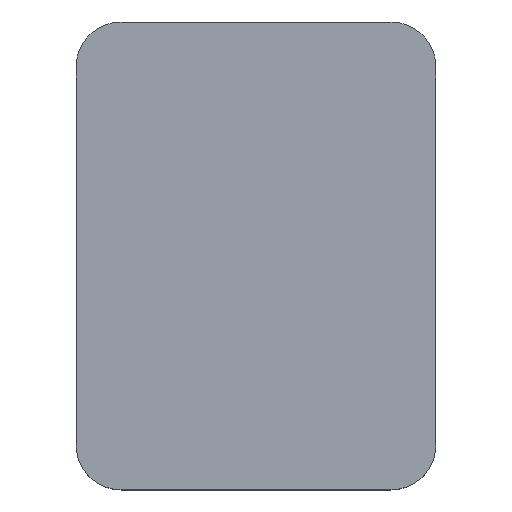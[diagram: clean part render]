
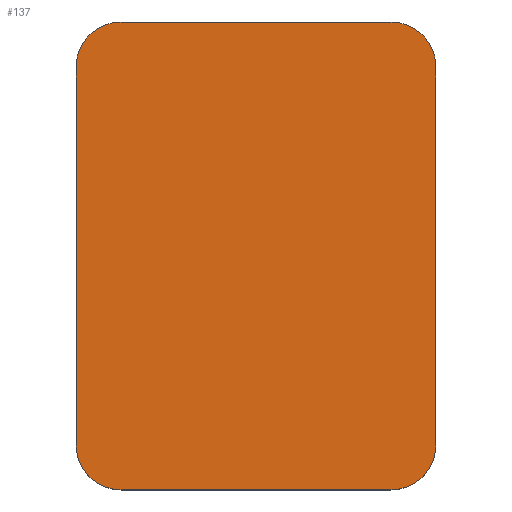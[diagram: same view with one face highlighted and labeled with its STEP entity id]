
A CAD part, top view. The second image highlights one B-rep face of the part: STEP entity #137.
In plain terms, the highlighted planar face has unit normal (0, 0, 1).
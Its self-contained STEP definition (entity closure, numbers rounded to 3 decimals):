
#21 = EDGE_CURVE('',#22,#24,#26,.T.);
#22 = VERTEX_POINT('',#23);
#23 = CARTESIAN_POINT('',(-20.,-21.,14.));
#24 = VERTEX_POINT('',#25);
#25 = CARTESIAN_POINT('',(-20.,21.,14.));
#26 = SURFACE_CURVE('',#27,(#31,#43),.PCURVE_S1.);
#27 = LINE('',#28,#29);
#28 = CARTESIAN_POINT('',(-20.,-26.,14.));
#29 = VECTOR('',#30,1.);
#30 = DIRECTION('',(0.,1.,0.));
#31 = PCURVE('',#32,#37);
#32 = PLANE('',#33);
#33 = AXIS2_PLACEMENT_3D('',#34,#35,#36);
#34 = CARTESIAN_POINT('',(-20.,-26.,0.));
#35 = DIRECTION('',(1.,0.,0.));
#36 = DIRECTION('',(0.,0.,1.));
#37 = DEFINITIONAL_REPRESENTATION('',(#38),#42);
#38 = LINE('',#39,#40);
#39 = CARTESIAN_POINT('',(14.,0.));
#40 = VECTOR('',#41,1.);
#41 = DIRECTION('',(0.,-1.));
#42 = ( GEOMETRIC_REPRESENTATION_CONTEXT(2) 
PARAMETRIC_REPRESENTATION_CONTEXT() REPRESENTATION_CONTEXT('2D SPACE',''
  ) );
#43 = PCURVE('',#44,#49);
#44 = PLANE('',#45);
#45 = AXIS2_PLACEMENT_3D('',#46,#47,#48);
#46 = CARTESIAN_POINT('',(-20.,-26.,14.));
#47 = DIRECTION('',(0.,0.,1.));
#48 = DIRECTION('',(1.,0.,0.));
#49 = DEFINITIONAL_REPRESENTATION('',(#50),#54);
#50 = LINE('',#51,#52);
#51 = CARTESIAN_POINT('',(0.,0.));
#52 = VECTOR('',#53,1.);
#53 = DIRECTION('',(0.,1.));
#54 = ( GEOMETRIC_REPRESENTATION_CONTEXT(2) 
PARAMETRIC_REPRESENTATION_CONTEXT() REPRESENTATION_CONTEXT('2D SPACE',''
  ) );
#72 = CYLINDRICAL_SURFACE('',#73,5.);
#73 = AXIS2_PLACEMENT_3D('',#74,#75,#76);
#74 = CARTESIAN_POINT('',(-15.,-21.,0.));
#75 = DIRECTION('',(0.,0.,1.));
#76 = DIRECTION('',(-1.,-0.,0.));
#126 = CYLINDRICAL_SURFACE('',#127,5.);
#127 = AXIS2_PLACEMENT_3D('',#128,#129,#130);
#128 = CARTESIAN_POINT('',(-15.,21.,0.));
#129 = DIRECTION('',(0.,0.,1.));
#130 = DIRECTION('',(-1.,-0.,0.));
#137 = ADVANCED_FACE('',(#138),#44,.T.);
#138 = FACE_BOUND('',#139,.T.);
#139 = EDGE_LOOP('',(#140,#141,#165,#193,#226,#254,#283,#311));
#140 = ORIENTED_EDGE('',*,*,#21,.F.);
#141 = ORIENTED_EDGE('',*,*,#142,.T.);
#142 = EDGE_CURVE('',#22,#143,#145,.T.);
#143 = VERTEX_POINT('',#144);
#144 = CARTESIAN_POINT('',(-15.,-26.,14.));
#145 = SURFACE_CURVE('',#146,(#151,#158),.PCURVE_S1.);
#146 = CIRCLE('',#147,5.);
#147 = AXIS2_PLACEMENT_3D('',#148,#149,#150);
#148 = CARTESIAN_POINT('',(-15.,-21.,14.));
#149 = DIRECTION('',(0.,0.,1.));
#150 = DIRECTION('',(0.,-1.,0.));
#151 = PCURVE('',#44,#152);
#152 = DEFINITIONAL_REPRESENTATION('',(#153),#157);
#153 = CIRCLE('',#154,5.);
#154 = AXIS2_PLACEMENT_2D('',#155,#156);
#155 = CARTESIAN_POINT('',(5.,5.));
#156 = DIRECTION('',(0.,-1.));
#157 = ( GEOMETRIC_REPRESENTATION_CONTEXT(2) 
PARAMETRIC_REPRESENTATION_CONTEXT() REPRESENTATION_CONTEXT('2D SPACE',''
  ) );
#158 = PCURVE('',#72,#159);
#159 = DEFINITIONAL_REPRESENTATION('',(#160),#164);
#160 = LINE('',#161,#162);
#161 = CARTESIAN_POINT('',(-4.712,14.));
#162 = VECTOR('',#163,1.);
#163 = DIRECTION('',(1.,0.));
#164 = ( GEOMETRIC_REPRESENTATION_CONTEXT(2) 
PARAMETRIC_REPRESENTATION_CONTEXT() REPRESENTATION_CONTEXT('2D SPACE',''
  ) );
#165 = ORIENTED_EDGE('',*,*,#166,.T.);
#166 = EDGE_CURVE('',#143,#167,#169,.T.);
#167 = VERTEX_POINT('',#168);
#168 = CARTESIAN_POINT('',(15.,-26.,14.));
#169 = SURFACE_CURVE('',#170,(#174,#181),.PCURVE_S1.);
#170 = LINE('',#171,#172);
#171 = CARTESIAN_POINT('',(-20.,-26.,14.));
#172 = VECTOR('',#173,1.);
#173 = DIRECTION('',(1.,0.,0.));
#174 = PCURVE('',#44,#175);
#175 = DEFINITIONAL_REPRESENTATION('',(#176),#180);
#176 = LINE('',#177,#178);
#177 = CARTESIAN_POINT('',(0.,0.));
#178 = VECTOR('',#179,1.);
#179 = DIRECTION('',(1.,0.));
#180 = ( GEOMETRIC_REPRESENTATION_CONTEXT(2) 
PARAMETRIC_REPRESENTATION_CONTEXT() REPRESENTATION_CONTEXT('2D SPACE',''
  ) );
#181 = PCURVE('',#182,#187);
#182 = PLANE('',#183);
#183 = AXIS2_PLACEMENT_3D('',#184,#185,#186);
#184 = CARTESIAN_POINT('',(-20.,-26.,0.));
#185 = DIRECTION('',(0.,1.,0.));
#186 = DIRECTION('',(0.,0.,1.));
#187 = DEFINITIONAL_REPRESENTATION('',(#188),#192);
#188 = LINE('',#189,#190);
#189 = CARTESIAN_POINT('',(14.,0.));
#190 = VECTOR('',#191,1.);
#191 = DIRECTION('',(0.,1.));
#192 = ( GEOMETRIC_REPRESENTATION_CONTEXT(2) 
PARAMETRIC_REPRESENTATION_CONTEXT() REPRESENTATION_CONTEXT('2D SPACE',''
  ) );
#193 = ORIENTED_EDGE('',*,*,#194,.F.);
#194 = EDGE_CURVE('',#195,#167,#197,.T.);
#195 = VERTEX_POINT('',#196);
#196 = CARTESIAN_POINT('',(20.,-21.,14.));
#197 = SURFACE_CURVE('',#198,(#203,#214),.PCURVE_S1.);
#198 = CIRCLE('',#199,5.);
#199 = AXIS2_PLACEMENT_3D('',#200,#201,#202);
#200 = CARTESIAN_POINT('',(15.,-21.,14.));
#201 = DIRECTION('',(-0.,-0.,-1.));
#202 = DIRECTION('',(0.,-1.,0.));
#203 = PCURVE('',#44,#204);
#204 = DEFINITIONAL_REPRESENTATION('',(#205),#213);
#205 = ( BOUNDED_CURVE() B_SPLINE_CURVE(2,(#206,#207,#208,#209,#210,#211
,#212),.UNSPECIFIED.,.T.,.F.) B_SPLINE_CURVE_WITH_KNOTS((1,2,2,2,2,1),(
    -2.094,0.,2.094,4.189,6.283,
8.378),.UNSPECIFIED.) CURVE() GEOMETRIC_REPRESENTATION_ITEM() 
RATIONAL_B_SPLINE_CURVE((1.,0.5,1.,0.5,1.,0.5,1.)) REPRESENTATION_ITEM(
  '') );
#206 = CARTESIAN_POINT('',(35.,0.));
#207 = CARTESIAN_POINT('',(26.34,0.));
#208 = CARTESIAN_POINT('',(30.67,7.5));
#209 = CARTESIAN_POINT('',(35.,15.));
#210 = CARTESIAN_POINT('',(39.33,7.5));
#211 = CARTESIAN_POINT('',(43.66,0.));
#212 = CARTESIAN_POINT('',(35.,0.));
#213 = ( GEOMETRIC_REPRESENTATION_CONTEXT(2) 
PARAMETRIC_REPRESENTATION_CONTEXT() REPRESENTATION_CONTEXT('2D SPACE',''
  ) );
#214 = PCURVE('',#215,#220);
#215 = CYLINDRICAL_SURFACE('',#216,5.);
#216 = AXIS2_PLACEMENT_3D('',#217,#218,#219);
#217 = CARTESIAN_POINT('',(15.,-21.,0.));
#218 = DIRECTION('',(0.,0.,1.));
#219 = DIRECTION('',(1.,0.,-0.));
#220 = DEFINITIONAL_REPRESENTATION('',(#221),#225);
#221 = LINE('',#222,#223);
#222 = CARTESIAN_POINT('',(4.712,14.));
#223 = VECTOR('',#224,1.);
#224 = DIRECTION('',(-1.,0.));
#225 = ( GEOMETRIC_REPRESENTATION_CONTEXT(2) 
PARAMETRIC_REPRESENTATION_CONTEXT() REPRESENTATION_CONTEXT('2D SPACE',''
  ) );
#226 = ORIENTED_EDGE('',*,*,#227,.T.);
#227 = EDGE_CURVE('',#195,#228,#230,.T.);
#228 = VERTEX_POINT('',#229);
#229 = CARTESIAN_POINT('',(20.,21.,14.));
#230 = SURFACE_CURVE('',#231,(#235,#242),.PCURVE_S1.);
#231 = LINE('',#232,#233);
#232 = CARTESIAN_POINT('',(20.,-26.,14.));
#233 = VECTOR('',#234,1.);
#234 = DIRECTION('',(0.,1.,0.));
#235 = PCURVE('',#44,#236);
#236 = DEFINITIONAL_REPRESENTATION('',(#237),#241);
#237 = LINE('',#238,#239);
#238 = CARTESIAN_POINT('',(40.,0.));
#239 = VECTOR('',#240,1.);
#240 = DIRECTION('',(0.,1.));
#241 = ( GEOMETRIC_REPRESENTATION_CONTEXT(2) 
PARAMETRIC_REPRESENTATION_CONTEXT() REPRESENTATION_CONTEXT('2D SPACE',''
  ) );
#242 = PCURVE('',#243,#248);
#243 = PLANE('',#244);
#244 = AXIS2_PLACEMENT_3D('',#245,#246,#247);
#245 = CARTESIAN_POINT('',(20.,-26.,0.));
#246 = DIRECTION('',(1.,0.,0.));
#247 = DIRECTION('',(0.,0.,1.));
#248 = DEFINITIONAL_REPRESENTATION('',(#249),#253);
#249 = LINE('',#250,#251);
#250 = CARTESIAN_POINT('',(14.,0.));
#251 = VECTOR('',#252,1.);
#252 = DIRECTION('',(0.,-1.));
#253 = ( GEOMETRIC_REPRESENTATION_CONTEXT(2) 
PARAMETRIC_REPRESENTATION_CONTEXT() REPRESENTATION_CONTEXT('2D SPACE',''
  ) );
#254 = ORIENTED_EDGE('',*,*,#255,.T.);
#255 = EDGE_CURVE('',#228,#256,#258,.T.);
#256 = VERTEX_POINT('',#257);
#257 = CARTESIAN_POINT('',(15.,26.,14.));
#258 = SURFACE_CURVE('',#259,(#264,#271),.PCURVE_S1.);
#259 = CIRCLE('',#260,5.);
#260 = AXIS2_PLACEMENT_3D('',#261,#262,#263);
#261 = CARTESIAN_POINT('',(15.,21.,14.));
#262 = DIRECTION('',(0.,0.,1.));
#263 = DIRECTION('',(0.,-1.,0.));
#264 = PCURVE('',#44,#265);
#265 = DEFINITIONAL_REPRESENTATION('',(#266),#270);
#266 = CIRCLE('',#267,5.);
#267 = AXIS2_PLACEMENT_2D('',#268,#269);
#268 = CARTESIAN_POINT('',(35.,47.));
#269 = DIRECTION('',(0.,-1.));
#270 = ( GEOMETRIC_REPRESENTATION_CONTEXT(2) 
PARAMETRIC_REPRESENTATION_CONTEXT() REPRESENTATION_CONTEXT('2D SPACE',''
  ) );
#271 = PCURVE('',#272,#277);
#272 = CYLINDRICAL_SURFACE('',#273,5.);
#273 = AXIS2_PLACEMENT_3D('',#274,#275,#276);
#274 = CARTESIAN_POINT('',(15.,21.,0.));
#275 = DIRECTION('',(0.,0.,1.));
#276 = DIRECTION('',(1.,0.,-0.));
#277 = DEFINITIONAL_REPRESENTATION('',(#278),#282);
#278 = LINE('',#279,#280);
#279 = CARTESIAN_POINT('',(-1.571,14.));
#280 = VECTOR('',#281,1.);
#281 = DIRECTION('',(1.,0.));
#282 = ( GEOMETRIC_REPRESENTATION_CONTEXT(2) 
PARAMETRIC_REPRESENTATION_CONTEXT() REPRESENTATION_CONTEXT('2D SPACE',''
  ) );
#283 = ORIENTED_EDGE('',*,*,#284,.F.);
#284 = EDGE_CURVE('',#285,#256,#287,.T.);
#285 = VERTEX_POINT('',#286);
#286 = CARTESIAN_POINT('',(-15.,26.,14.));
#287 = SURFACE_CURVE('',#288,(#292,#299),.PCURVE_S1.);
#288 = LINE('',#289,#290);
#289 = CARTESIAN_POINT('',(-20.,26.,14.));
#290 = VECTOR('',#291,1.);
#291 = DIRECTION('',(1.,0.,0.));
#292 = PCURVE('',#44,#293);
#293 = DEFINITIONAL_REPRESENTATION('',(#294),#298);
#294 = LINE('',#295,#296);
#295 = CARTESIAN_POINT('',(0.,52.));
#296 = VECTOR('',#297,1.);
#297 = DIRECTION('',(1.,0.));
#298 = ( GEOMETRIC_REPRESENTATION_CONTEXT(2) 
PARAMETRIC_REPRESENTATION_CONTEXT() REPRESENTATION_CONTEXT('2D SPACE',''
  ) );
#299 = PCURVE('',#300,#305);
#300 = PLANE('',#301);
#301 = AXIS2_PLACEMENT_3D('',#302,#303,#304);
#302 = CARTESIAN_POINT('',(-20.,26.,0.));
#303 = DIRECTION('',(0.,1.,0.));
#304 = DIRECTION('',(0.,0.,1.));
#305 = DEFINITIONAL_REPRESENTATION('',(#306),#310);
#306 = LINE('',#307,#308);
#307 = CARTESIAN_POINT('',(14.,0.));
#308 = VECTOR('',#309,1.);
#309 = DIRECTION('',(0.,1.));
#310 = ( GEOMETRIC_REPRESENTATION_CONTEXT(2) 
PARAMETRIC_REPRESENTATION_CONTEXT() REPRESENTATION_CONTEXT('2D SPACE',''
  ) );
#311 = ORIENTED_EDGE('',*,*,#312,.F.);
#312 = EDGE_CURVE('',#24,#285,#313,.T.);
#313 = SURFACE_CURVE('',#314,(#319,#330),.PCURVE_S1.);
#314 = CIRCLE('',#315,5.);
#315 = AXIS2_PLACEMENT_3D('',#316,#317,#318);
#316 = CARTESIAN_POINT('',(-15.,21.,14.));
#317 = DIRECTION('',(-0.,-0.,-1.));
#318 = DIRECTION('',(0.,-1.,0.));
#319 = PCURVE('',#44,#320);
#320 = DEFINITIONAL_REPRESENTATION('',(#321),#329);
#321 = ( BOUNDED_CURVE() B_SPLINE_CURVE(2,(#322,#323,#324,#325,#326,#327
,#328),.UNSPECIFIED.,.T.,.F.) B_SPLINE_CURVE_WITH_KNOTS((1,2,2,2,2,1),(
    -2.094,0.,2.094,4.189,6.283,
8.378),.UNSPECIFIED.) CURVE() GEOMETRIC_REPRESENTATION_ITEM() 
RATIONAL_B_SPLINE_CURVE((1.,0.5,1.,0.5,1.,0.5,1.)) REPRESENTATION_ITEM(
  '') );
#322 = CARTESIAN_POINT('',(5.,42.));
#323 = CARTESIAN_POINT('',(-3.66,42.));
#324 = CARTESIAN_POINT('',(0.67,49.5));
#325 = CARTESIAN_POINT('',(5.,57.));
#326 = CARTESIAN_POINT('',(9.33,49.5));
#327 = CARTESIAN_POINT('',(13.66,42.));
#328 = CARTESIAN_POINT('',(5.,42.));
#329 = ( GEOMETRIC_REPRESENTATION_CONTEXT(2) 
PARAMETRIC_REPRESENTATION_CONTEXT() REPRESENTATION_CONTEXT('2D SPACE',''
  ) );
#330 = PCURVE('',#126,#331);
#331 = DEFINITIONAL_REPRESENTATION('',(#332),#336);
#332 = LINE('',#333,#334);
#333 = CARTESIAN_POINT('',(1.571,14.));
#334 = VECTOR('',#335,1.);
#335 = DIRECTION('',(-1.,0.));
#336 = ( GEOMETRIC_REPRESENTATION_CONTEXT(2) 
PARAMETRIC_REPRESENTATION_CONTEXT() REPRESENTATION_CONTEXT('2D SPACE',''
  ) );
